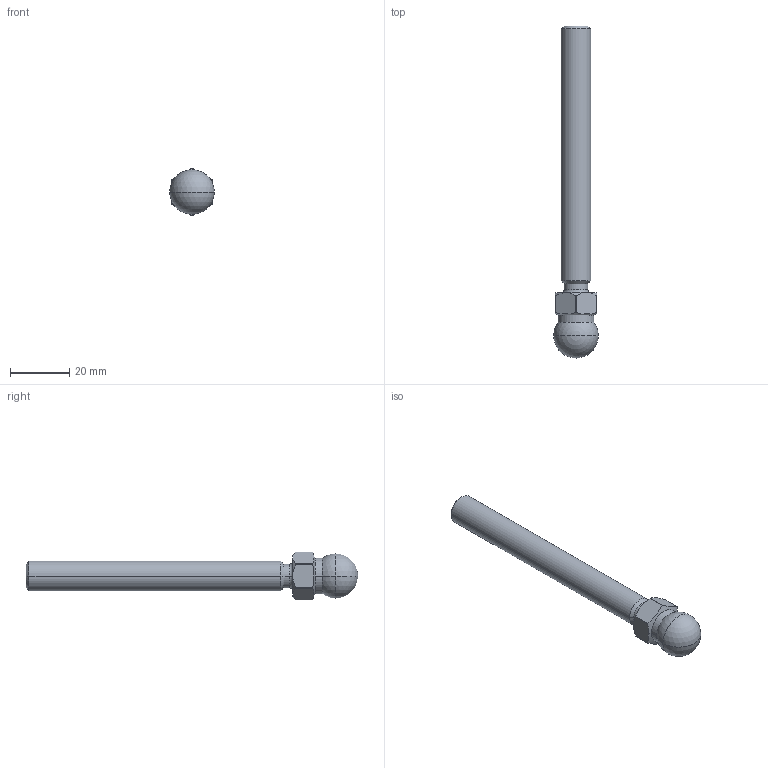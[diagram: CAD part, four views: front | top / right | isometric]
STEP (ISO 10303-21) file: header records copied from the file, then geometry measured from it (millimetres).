
FILE_DESCRIPTION(('STEP AP214'),'1');
FILE_NAME('fath_098dm10090m.stp','2018-07-26T07:07:55',('TraceParts'),('TraceParts S.A.'),'Spatial InterOp 3D',' ',' ');
FILE_SCHEMA(('automotive_design'));
Length unit declared in the file: millimetre
Products named in the file (1): fath_098dm10090m
Bounding box: 15 x 112 x 16.1 mm (x, y, z)
Volume: 10079.6 mm3; surface area: 4033.9 mm2
Topology: 1 solids, 1 shells, 38 faces, 98 edges, 59 vertices
Faces by surface type: cone 12, cylinder 12, plane 8, sphere 4, torus 2
Entity records: 1559 total; most frequent: CARTESIAN_POINT 328, DIRECTION 196, ORIENTED_EDGE 188, EDGE_CURVE 94, AXIS2_PLACEMENT_3D 83, VERTEX_POINT 59, CIRCLE 44, STYLED_ITEM 39
